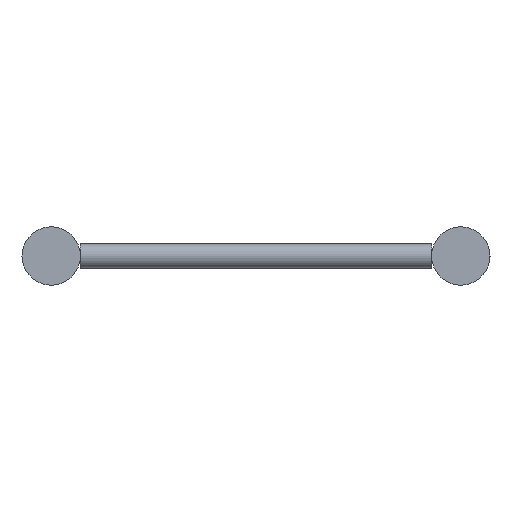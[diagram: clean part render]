
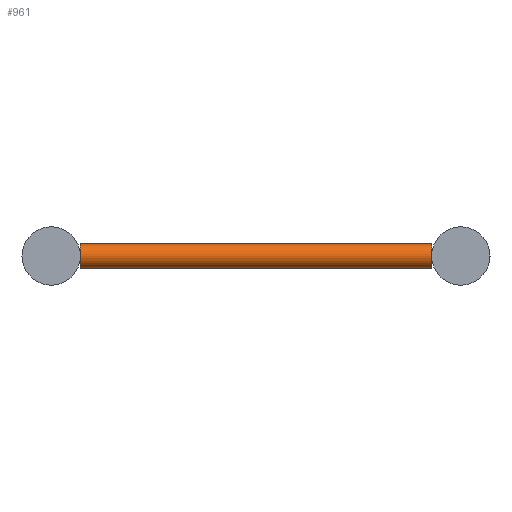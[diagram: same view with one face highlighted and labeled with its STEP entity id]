
A CAD part, left-side view. The second image highlights one B-rep face of the part: STEP entity #961.
In plain terms, the highlighted cylindrical face has radius 10 mm (diameter 20 mm), a full revolution.
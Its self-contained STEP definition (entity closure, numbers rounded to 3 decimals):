
#53=CIRCLE('',#1089,10.);
#54=CIRCLE('',#1091,10.);
#55=CIRCLE('',#1093,10.);
#56=CIRCLE('',#1095,10.);
#107=FACE_BOUND('',#316,.T.);
#157=CYLINDRICAL_SURFACE('',#1094,10.);
#214=FACE_OUTER_BOUND('',#315,.T.);
#315=EDGE_LOOP('',(#652,#653));
#316=EDGE_LOOP('',(#654,#655));
#458=VERTEX_POINT('',#1578);
#459=VERTEX_POINT('',#1579);
#460=VERTEX_POINT('',#1583);
#461=VERTEX_POINT('',#1584);
#537=EDGE_CURVE('',#459,#458,#53,.T.);
#539=EDGE_CURVE('',#461,#460,#54,.T.);
#540=EDGE_CURVE('',#458,#459,#55,.T.);
#541=EDGE_CURVE('',#460,#461,#56,.T.);
#652=ORIENTED_EDGE('',*,*,#537,.T.);
#653=ORIENTED_EDGE('',*,*,#540,.T.);
#654=ORIENTED_EDGE('',*,*,#539,.T.);
#655=ORIENTED_EDGE('',*,*,#541,.T.);
#961=ADVANCED_FACE('',(#214,#107),#157,.T.);
#1089=AXIS2_PLACEMENT_3D('',#1581,#1304,#1305);
#1091=AXIS2_PLACEMENT_3D('',#1586,#1309,#1310);
#1093=AXIS2_PLACEMENT_3D('',#1588,#1313,#1314);
#1094=AXIS2_PLACEMENT_3D('',#1589,#1315,#1316);
#1095=AXIS2_PLACEMENT_3D('',#1590,#1317,#1318);
#1304=DIRECTION('center_axis',(0.,1.,0.));
#1305=DIRECTION('ref_axis',(-1.,0.,0.));
#1309=DIRECTION('center_axis',(0.,-1.,0.));
#1310=DIRECTION('ref_axis',(-1.,0.,0.));
#1313=DIRECTION('center_axis',(0.,1.,0.));
#1314=DIRECTION('ref_axis',(-1.,0.,0.));
#1315=DIRECTION('center_axis',(0.,1.,0.));
#1316=DIRECTION('ref_axis',(-1.,0.,0.));
#1317=DIRECTION('center_axis',(0.,-1.,0.));
#1318=DIRECTION('ref_axis',(-1.,0.,0.));
#1578=CARTESIAN_POINT('',(40.,24.15,0.));
#1579=CARTESIAN_POINT('',(60.,24.15,0.));
#1581=CARTESIAN_POINT('Origin',(50.,24.15,0.));
#1583=CARTESIAN_POINT('',(40.,314.85,0.));
#1584=CARTESIAN_POINT('',(60.,314.85,0.));
#1586=CARTESIAN_POINT('Origin',(50.,314.85,0.));
#1588=CARTESIAN_POINT('Origin',(50.,24.15,0.));
#1589=CARTESIAN_POINT('Origin',(50.,169.5,0.));
#1590=CARTESIAN_POINT('Origin',(50.,314.85,0.));
